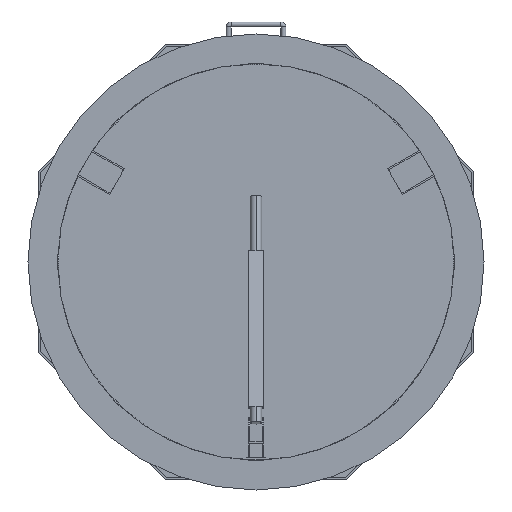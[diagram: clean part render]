
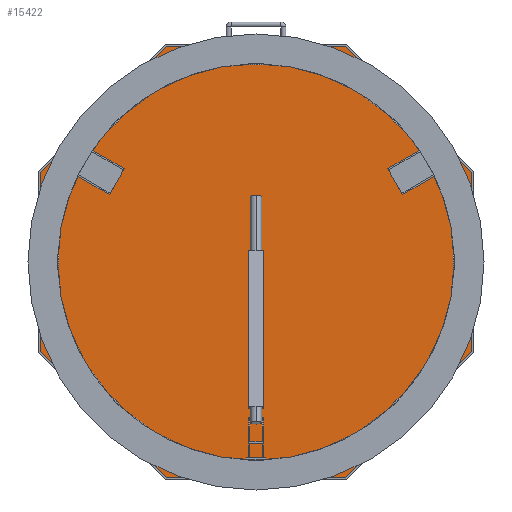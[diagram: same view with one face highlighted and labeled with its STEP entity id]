
A CAD part, front view. The second image highlights one B-rep face of the part: STEP entity #15422.
In plain terms, the highlighted planar face has unit normal (0, -1, 0).
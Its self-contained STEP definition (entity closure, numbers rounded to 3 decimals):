
#6489=DIRECTION('',(0.707,0.,-0.707));
#6490=VECTOR('',#6489,358.295);
#6491=CARTESIAN_POINT('',(-432.5,74.,-179.147));
#6492=LINE('',#6491,#6490);
#6497=DIRECTION('',(0.,0.,-1.));
#6498=VECTOR('',#6497,358.295);
#6499=CARTESIAN_POINT('',(-432.5,74.,179.147));
#6500=LINE('',#6499,#6498);
#6505=DIRECTION('',(-0.707,0.,-0.707));
#6506=VECTOR('',#6505,358.295);
#6507=CARTESIAN_POINT('',(-179.147,74.,432.5));
#6508=LINE('',#6507,#6506);
#6513=DIRECTION('',(-1.,0.,0.));
#6514=VECTOR('',#6513,358.295);
#6515=CARTESIAN_POINT('',(179.147,74.,432.5));
#6516=LINE('',#6515,#6514);
#6521=DIRECTION('',(-0.707,0.,0.707));
#6522=VECTOR('',#6521,358.295);
#6523=CARTESIAN_POINT('',(432.5,74.,179.147));
#6524=LINE('',#6523,#6522);
#6529=DIRECTION('',(0.,0.,1.));
#6530=VECTOR('',#6529,358.295);
#6531=CARTESIAN_POINT('',(432.5,74.,-179.147));
#6532=LINE('',#6531,#6530);
#6537=DIRECTION('',(0.707,0.,0.707));
#6538=VECTOR('',#6537,358.295);
#6539=CARTESIAN_POINT('',(179.147,74.,-432.5));
#6540=LINE('',#6539,#6538);
#6545=DIRECTION('',(1.,0.,0.));
#6546=VECTOR('',#6545,358.295);
#6547=CARTESIAN_POINT('',(-179.147,74.,-432.5));
#6548=LINE('',#6547,#6546);
#11996=CARTESIAN_POINT('',(-432.5,74.,-179.147));
#11997=CARTESIAN_POINT('',(-179.147,74.,-432.5));
#11998=VERTEX_POINT('',#11996);
#11999=VERTEX_POINT('',#11997);
#12000=CARTESIAN_POINT('',(179.147,74.,-432.5));
#12001=VERTEX_POINT('',#12000);
#12002=CARTESIAN_POINT('',(432.5,74.,-179.147));
#12003=VERTEX_POINT('',#12002);
#12004=CARTESIAN_POINT('',(432.5,74.,179.147));
#12005=VERTEX_POINT('',#12004);
#12006=CARTESIAN_POINT('',(179.147,74.,432.5));
#12007=VERTEX_POINT('',#12006);
#12008=CARTESIAN_POINT('',(-179.147,74.,432.5));
#12009=VERTEX_POINT('',#12008);
#12010=CARTESIAN_POINT('',(-432.5,74.,179.147));
#12011=VERTEX_POINT('',#12010);
#15400=CARTESIAN_POINT('',(0.,74.,0.));
#15401=DIRECTION('',(0.,1.,0.));
#15402=DIRECTION('',(1.,0.,0.));
#15403=AXIS2_PLACEMENT_3D('',#15400,#15401,#15402);
#15404=PLANE('',#15403);
#15405=ORIENTED_EDGE('',*,*,#15390,.F.);
#15407=ORIENTED_EDGE('',*,*,#15406,.F.);
#15409=ORIENTED_EDGE('',*,*,#15408,.F.);
#15411=ORIENTED_EDGE('',*,*,#15410,.F.);
#15413=ORIENTED_EDGE('',*,*,#15412,.F.);
#15415=ORIENTED_EDGE('',*,*,#15414,.F.);
#15417=ORIENTED_EDGE('',*,*,#15416,.F.);
#15419=ORIENTED_EDGE('',*,*,#15418,.F.);
#15420=EDGE_LOOP('',(#15405,#15407,#15409,#15411,#15413,#15415,#15417,#15419));
#15421=FACE_OUTER_BOUND('',#15420,.F.);
#15390=EDGE_CURVE('',#11998,#11999,#6492,.T.);
#15406=EDGE_CURVE('',#12011,#11998,#6500,.T.);
#15408=EDGE_CURVE('',#12009,#12011,#6508,.T.);
#15410=EDGE_CURVE('',#12007,#12009,#6516,.T.);
#15412=EDGE_CURVE('',#12005,#12007,#6524,.T.);
#15414=EDGE_CURVE('',#12003,#12005,#6532,.T.);
#15416=EDGE_CURVE('',#12001,#12003,#6540,.T.);
#15418=EDGE_CURVE('',#11999,#12001,#6548,.T.);
#15422=ADVANCED_FACE('',(#15421),#15404,.F.);
